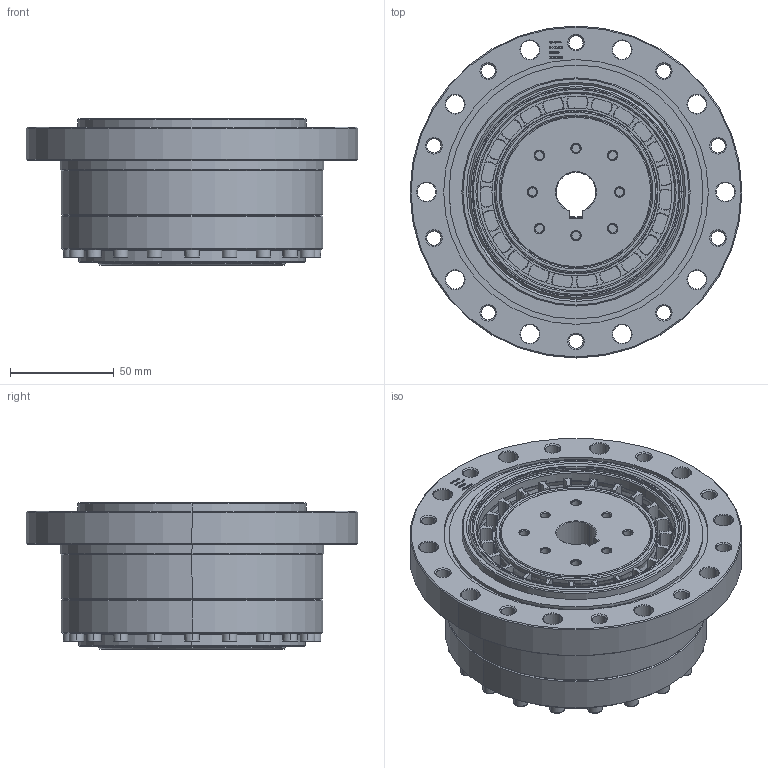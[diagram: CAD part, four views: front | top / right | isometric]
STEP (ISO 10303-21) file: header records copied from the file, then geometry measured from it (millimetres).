
FILE_DESCRIPTION (( 'STEP AP203' ), '1' );
FILE_NAME ('CS-40-XX-U-I-DL-¦Õ19.STEP', '2024-09-12T07:24:41', ( 'Windows User' ), ( 'P R C' ), 'SwSTEP 2.0', 'SolidWorks 2016', '' );
FILE_SCHEMA (( 'CONFIG_CONTROL_DESIGN' ));
Length unit declared in the file: millimetre
Products named in the file (1): CS-40-XX-U-I-DL-耳19
Bounding box: 160 x 160 x 70.5 mm (x, y, z)
Volume: 603371.2 mm3; surface area: 260892.3 mm2
Topology: 42 solids, 42 shells, 2665 faces, 6383 edges, 3868 vertices
Faces by surface type: plane 950, cone 831, cylinder 509, bspline 375
Entity records: 91982 total; most frequent: CARTESIAN_POINT 31337, DIRECTION 12615, ORIENTED_EDGE 12566, EDGE_CURVE 6283, AXIS2_PLACEMENT_3D 4828, VERTEX_POINT 3868, EDGE_LOOP 3027, VECTOR 2959
